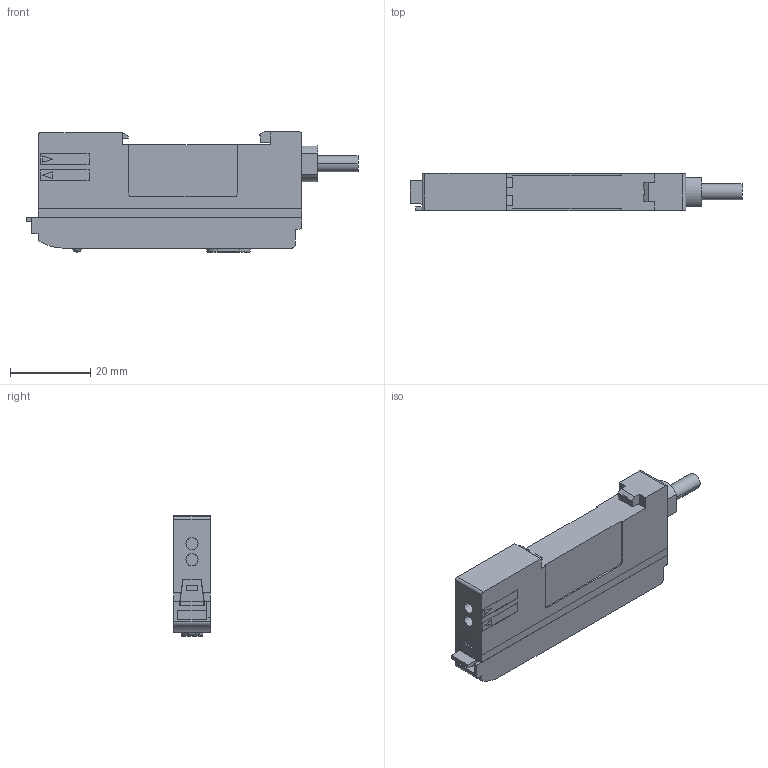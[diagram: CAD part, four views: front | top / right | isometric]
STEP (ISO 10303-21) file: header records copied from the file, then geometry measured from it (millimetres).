
FILE_DESCRIPTION((''),'2;1');
FILE_NAME('FDQ-V11_ASM','2018-07-27T13:44:38',('Administrator'),(''),'CREO PARAMETRIC BY PTC INC, 2016390','CREO PARAMETRIC BY PTC INC, 2016390','');
FILE_SCHEMA(('CONFIG_CONTROL_DESIGN'));
Length unit declared in the file: millimetre
Products named in the file (4): MAINBODY; GLASSCOVER; MIDDILE; FDQ-V11_ASM
Assembly tree (3 placements, depth 2):
  FDQ-V11_ASM
    MAINBODY
    GLASSCOVER
    MIDDILE
Bounding box: 82.69 x 9.2 x 30 mm (x, y, z)
Volume: 16298.8 mm3; surface area: 8446.6 mm2
Topology: 3 solids, 3 shells, 158 faces, 394 edges, 258 vertices
Faces by surface type: plane 130, cylinder 22, cone 2, torus 2, bspline 2
Entity records: 4794 total; most frequent: CARTESIAN_POINT 871, ORIENTED_EDGE 788, DIRECTION 774, EDGE_CURVE 394, VECTOR 340, LINE 340, VERTEX_POINT 258, AXIS2_PLACEMENT_3D 217
